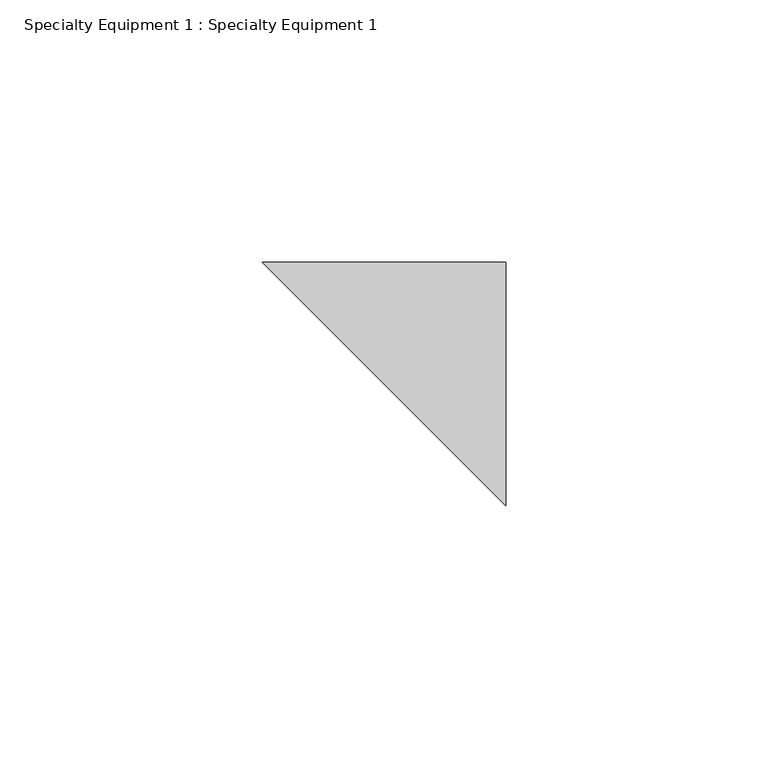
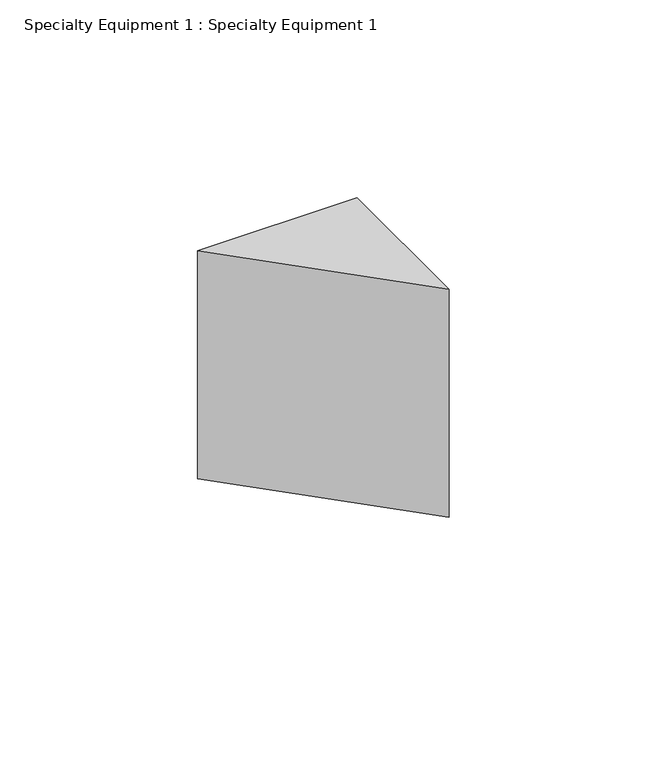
"""IFC4 building model written with IfcOpenShell, lengths in millimetres: proxy geometry, Specialty Equipment 1 : Specialty Equipment 1."""

import ifcopenshell
import ifcopenshell.guid

model = None  # the IFC model being written
_history = None  # IfcOwnerHistory: only IFC2X3 demands one
_inside = {}  # id of a spatial element -> (the spatial element, [elements in it])
_under = {}  # id of a project, library or spatial element -> (it, [spatial elements below it])
_declared = {}  # id of a project -> (the project, [libraries it declares])
_typed = {}  # id of a type object -> (the type object, [elements of that type])
_made_of = {}  # id of a material, layer set ... -> (it, [elements and type objects made of it])


def new_model(schema):
    """Start an empty IFC model of exactly this schema.

    Asked for "IFC4X3", IfcOpenShell would pick the latest addendum, in which some entities
    have other attributes; the version numbers below select the first issue.
    IFC2X3 requires an IfcOwnerHistory on every rooted entity: one is made here for all.
    """
    global model, _history
    if schema == "IFC4X3":
        model = ifcopenshell.file(schema_version=(4, 3, 0, 0))
    else:
        model = ifcopenshell.file(schema=schema)
    _inside.clear()
    _under.clear()
    _declared.clear()
    _typed.clear()
    _made_of.clear()
    _history = None
    if model.schema == "IFC2X3":
        org = make("IfcOrganization", Name="unknown")
        user = make(
            "IfcPersonAndOrganization",
            ThePerson=make("IfcPerson", FamilyName="unknown"),
            TheOrganization=org,
        )
        app = make(
            "IfcApplication",
            ApplicationDeveloper=org,
            Version="unknown",
            ApplicationFullName="unknown",
            ApplicationIdentifier="unknown",
        )
        _history = make(
            "IfcOwnerHistory",
            OwningUser=user,
            OwningApplication=app,
            ChangeAction="ADDED",
            CreationDate=0,
        )
    return model


def make(cls, **values):
    """One entity of the class cls with the attributes given. An attribute that is None is left unset."""
    return model.create_entity(
        cls, **{name: value for name, value in values.items() if value is not None}
    )


def rooted(cls, **values):
    """An entity with a GlobalId (a new one), such as an element, a storey or a relation."""
    return make(cls, GlobalId=ifcopenshell.guid.new(), OwnerHistory=_history, **values)


def si_unit(unit_type, name, prefix=None):
    """IfcSIUnit, for example si_unit("LENGTHUNIT", "METRE", prefix="MILLI")."""
    return make("IfcSIUnit", UnitType=unit_type, Prefix=prefix, Name=name)


def assignment(units):
    """IfcUnitAssignment: the units of a project."""
    return None if units is None else make("IfcUnitAssignment", Units=units)


def point(xyz):
    """IfcCartesianPoint."""
    return None if xyz is None else make("IfcCartesianPoint", Coordinates=xyz)


def direction(xyz):
    """IfcDirection."""
    return None if xyz is None else make("IfcDirection", DirectionRatios=xyz)


def frame(location, z_axis=None, x_axis=None):
    """IfcAxis2Placement3D, a coordinate frame: its origin and axes. An axis left out is left unset."""
    return make(
        "IfcAxis2Placement3D",
        Location=point(location),
        Axis=direction(z_axis),
        RefDirection=direction(x_axis),
    )


def origin():
    """The frame at (0, 0, 0) with its axes left unset."""
    return frame((0.0, 0.0, 0.0))


def place(relative_to, where):
    """IfcLocalPlacement: puts the frame where relative to a parent placement (None: the world)."""
    return make(
        "IfcLocalPlacement", PlacementRelTo=relative_to, RelativePlacement=where
    )


def context(
    kind, dimensions, precision=None, world=None, true_north=None, identifier=None
):
    """IfcGeometricRepresentationContext, for example the 3D "Model" context."""
    return make(
        "IfcGeometricRepresentationContext",
        ContextIdentifier=identifier,
        ContextType=kind,
        CoordinateSpaceDimension=dimensions,
        Precision=precision,
        WorldCoordinateSystem=world,
        TrueNorth=true_north,
    )


def project(units=None, contexts=None):
    """IfcProject with its units and contexts."""
    return rooted(
        "IfcProject",
        Name="project",
        RepresentationContexts=contexts,
        UnitsInContext=assignment(units),
    )


def spatial(cls, under=None, at=None, **own):
    """A site, building, storey or space (cls), placed at a placement, below another one or the project."""
    s = rooted(cls, ObjectPlacement=at, **own)
    if under is not None:
        _under.setdefault(under.id(), (under, []))[1].append(s)
    return s


def polyline(points):
    """IfcPolyline through the points."""
    return make("IfcPolyline", Points=[point(p) for p in points])


def outline(outer, holes=None, kind="AREA"):
    """IfcArbitraryClosedProfileDef: a profile drawn as a closed curve; with holes, ...WithVoids."""
    if holes is None:
        return make("IfcArbitraryClosedProfileDef", ProfileType=kind, OuterCurve=outer)
    return make(
        "IfcArbitraryProfileDefWithVoids",
        ProfileType=kind,
        OuterCurve=outer,
        InnerCurves=holes,
    )


def extrude(swept, where, along, depth):
    """IfcExtrudedAreaSolid: the profile swept, set in the frame where, extruded along a direction by depth."""
    return make(
        "IfcExtrudedAreaSolid",
        SweptArea=swept,
        Position=where,
        ExtrudedDirection=direction(along),
        Depth=depth,
    )


def shape(context_of_items, identifier, shape_type, items):
    """IfcShapeRepresentation: the items that make up one representation, for example the "Body"."""
    return make(
        "IfcShapeRepresentation",
        ContextOfItems=context_of_items,
        RepresentationIdentifier=identifier,
        RepresentationType=shape_type,
        Items=items,
    )


def source(mapping_origin, context_of_items, identifier, shape_type, items):
    """IfcRepresentationMap: a shape defined once, which mapped items show again and again."""
    return make(
        "IfcRepresentationMap",
        MappingOrigin=mapping_origin,
        MappedRepresentation=shape(context_of_items, identifier, shape_type, items),
    )


def transform(
    local_origin,
    x_axis=None,
    y_axis=None,
    z_axis=None,
    scale=None,
    scale2=None,
    scale3=None,
    uniform=True,
):
    """IfcCartesianTransformationOperator3D, or its non-uniform kind. x_axis, y_axis, z_axis: its Axis1, 2, 3."""
    if uniform:
        return make(
            "IfcCartesianTransformationOperator3D",
            Axis1=direction(x_axis),
            Axis2=direction(y_axis),
            LocalOrigin=point(local_origin),
            Scale=scale,
            Axis3=direction(z_axis),
        )
    return make(
        "IfcCartesianTransformationOperator3DnonUniform",
        Axis1=direction(x_axis),
        Axis2=direction(y_axis),
        LocalOrigin=point(local_origin),
        Scale=scale,
        Axis3=direction(z_axis),
        Scale2=scale2,
        Scale3=scale3,
    )


def mapped(mapping_source, mapping_target):
    """IfcMappedItem: shows the shape of a source again, moved by a transform."""
    return make(
        "IfcMappedItem", MappingSource=mapping_source, MappingTarget=mapping_target
    )


def made_of(thing, what):
    """Note that an element or type object is made of a material, layer set ...; save() writes the relation."""
    if what is not None:
        _made_of.setdefault(what.id(), (what, []))[1].append(thing)
    return thing


def element(
    cls,
    number,
    at=None,
    inside=None,
    cuts=None,
    type_object=None,
    material=None,
    context=None,
    identifier="Body",
    shape_type=None,
    held_by="IfcProductDefinitionShape",
    body=None,
    shapes=None,
    **own,
):
    """One element of the class cls, such as IfcWall. Its Tag is "e" and its number.

    at: its placement. inside: the storey or other place that contains it. cuts: it is an
    opening in that element (IfcRelVoidsElement). A single representation is given by context,
    identifier, shape_type and body (its items); several are given by shapes. held_by: the class
    of the entity that holds the representations. save() writes the other relations.
    """
    e = rooted(cls, Tag="e%d" % number, ObjectPlacement=at, **own)
    if body is not None:
        shapes = [shape(context, identifier, shape_type, body)]
    if shapes is not None:
        e.Representation = make(held_by, Representations=shapes)
    if inside is not None:
        _inside.setdefault(inside.id(), (inside, []))[1].append(e)
    if cuts is not None:
        rooted(
            "IfcRelVoidsElement", RelatingBuildingElement=cuts, RelatedOpeningElement=e
        )
    if type_object is not None:
        _typed.setdefault(type_object.id(), (type_object, []))[1].append(e)
    return made_of(e, material)


def aggregate(whole, parts):
    """IfcRelAggregates: a whole, such as a stair, and the parts it consists of."""
    return rooted("IfcRelAggregates", RelatingObject=whole, RelatedObjects=parts)


def save(model, path):
    """Write the relations noted so far, then the file.

    IfcRelAggregates (storeys below a building ...), IfcRelContainedInSpatialStructure (elements
    in a storey), IfcRelDefinesByType, IfcRelAssociatesMaterial and IfcRelDeclares: one each for
    every whole, place, type object, material and project.
    """
    for whole, parts in _under.values():
        aggregate(whole, parts)
    for where, things in _inside.values():
        rooted(
            "IfcRelContainedInSpatialStructure",
            RelatedElements=things,
            RelatingStructure=where,
        )
    for kind, things in _typed.values():
        rooted("IfcRelDefinesByType", RelatedObjects=things, RelatingType=kind)
    for what, things in _made_of.values():
        rooted("IfcRelAssociatesMaterial", RelatedObjects=things, RelatingMaterial=what)
    for by, libraries in _declared.values():
        rooted("IfcRelDeclares", RelatingContext=by, RelatedDefinitions=libraries)
    model.write(path)


def specialty_equipment_1_specialty_equipment_1_e45c8498(model_context):
    return source(origin(), model_context, "Body", "SweptSolid", [
        extrude(outline(polyline([(10706.1, 8458.2), (10706.1, 8411.7402828), (10659.6402828, 8458.2), (10706.1, 8458.2)])), frame((0.0, 0.0, 5461.1520515), z_axis=(0.0, 0.0, 1.0), x_axis=(1.0, 0.0, 0.0)), (0.0, 0.0, 1.0), 70.2479485),
    ])


if __name__ == "__main__":
    model = new_model("IFC4")
    model_context = context("Model", 3, world=origin())
    ifc_project = project(units=[si_unit("LENGTHUNIT", "METRE", prefix="MILLI")], contexts=[model_context])
    site = spatial("IfcSite", under=ifc_project)
    building = spatial("IfcBuilding", under=site)
    placement = place(None, origin())
    specialty_equipment_1_specialty_equipment_1_shape = specialty_equipment_1_specialty_equipment_1_e45c8498(model_context)
    element("IfcBuildingElementProxy", 1, Name="Specialty Equipment 1 : Specialty Equipment 1", ObjectType="Specialty Equipment 1 : Specialty Equipment 1", at=placement, inside=building, context=model_context, shape_type="MappedRepresentation", body=[
        mapped(specialty_equipment_1_specialty_equipment_1_shape, transform((0.0, 0.0, 0.0), x_axis=(1.0, 0.0, 0.0), y_axis=(0.0, 1.0, 0.0), z_axis=(0.0, 0.0, 1.0))),
    ])
    save(model, "model.ifc")
